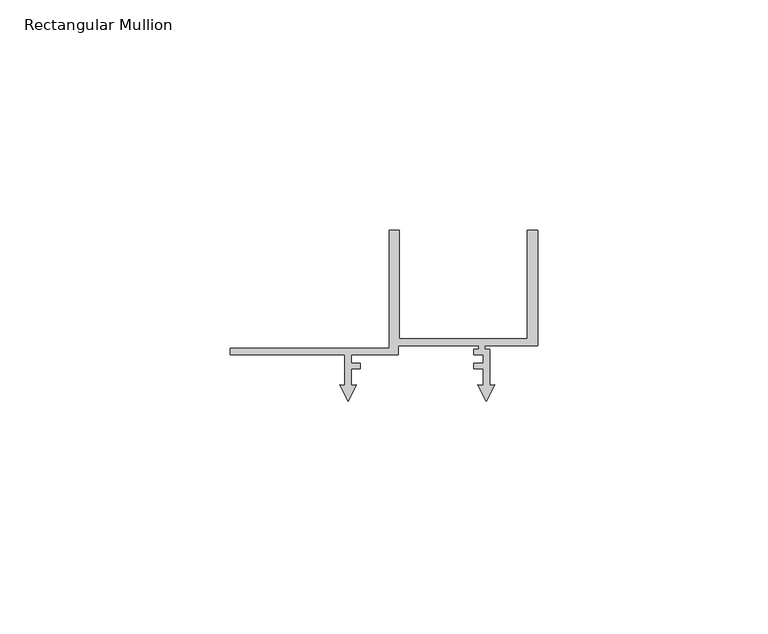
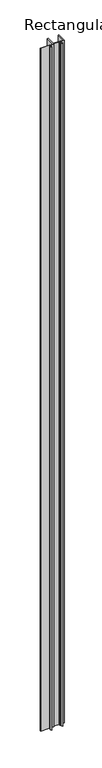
"""IFC4 building model written with IfcOpenShell, lengths in millimetres: member geometry, Rectangular Mullion : Renson_Linarte_LA-E25-01."""

from ifc_helpers import new_model, si_unit, frame, origin, place, context, project, spatial, polyline, outline, extrude, source, transform, mapped, element, save


def rectangular_mullion_d2ce5b57(model_context):
    return source(origin(), model_context, "Body", "SweptSolid", [
        extrude(outline(polyline([(-66.6, 68.1000494), (-32.2, 68.1000494), (-32.2, 93.6000494), (-30.0, 93.6000494), (-30.0, 70.1000494), (-2.2, 70.1000494), (-2.2, 93.6000494), (0.0, 93.6000494), (0.0, 68.6000494), (-11.4, 68.6000494), (-11.4, 67.8015754), (-10.3999985, 67.8015754), (-10.3999985, 60.0038712), (-9.284262, 60.1014855), (-11.0999986, 56.537898), (-12.9157351, 60.1014855), (-11.7999987, 60.0038712), (-11.7999987, 63.5979618), (-13.7875618, 63.5979618), (-13.7875618, 64.8000494), (-11.8091794, 64.8000494), (-11.8091794, 66.6000494), (-13.7880766, 66.6000494), (-13.7880766, 67.8015754), (-12.8, 67.8015754), (-12.8, 68.6000494), (-30.1732051, 68.6000494), (-30.1732051, 66.6000494), (-40.3999995, 66.6000494), (-40.3999995, 64.8000494), (-38.4077357, 64.8000494), (-38.4077357, 63.599221), (-40.3999998, 63.599221), (-40.3999998, 60.0071867), (-39.2744672, 60.1056581), (-41.0999986, 56.5228474), (-42.9255299, 60.1056578), (-41.8, 60.0071867), (-41.8, 66.6000494), (-66.6, 66.6000494), (-66.6, 68.1000494)])), frame((0.0, 0.0, -2000.0), z_axis=(0.0, 0.0, 1.0), x_axis=(1.0, 0.0, 0.0)), (0.0, 0.0, 1.0), 2000.0),
    ])


if __name__ == "__main__":
    model = new_model("IFC4")
    model_context = context("Model", 3, world=origin())
    ifc_project = project(units=[si_unit("LENGTHUNIT", "METRE", prefix="MILLI")], contexts=[model_context])
    site = spatial("IfcSite", under=ifc_project)
    building = spatial("IfcBuilding", under=site)
    placement = place(None, origin())
    rectangular_mullion_shape = rectangular_mullion_d2ce5b57(model_context)
    element("IfcMember", 1, ObjectType="Rectangular Mullion : Renson_Linarte_LA-E25-01", at=placement, inside=building, context=model_context, shape_type="MappedRepresentation", body=[
        mapped(rectangular_mullion_shape, transform((0.0, 0.0, 0.0), x_axis=(1.0, 0.0, 0.0), y_axis=(0.0, 1.0, 0.0), z_axis=(0.0, 0.0, 1.0))),
    ])
    save(model, "model.ifc")
